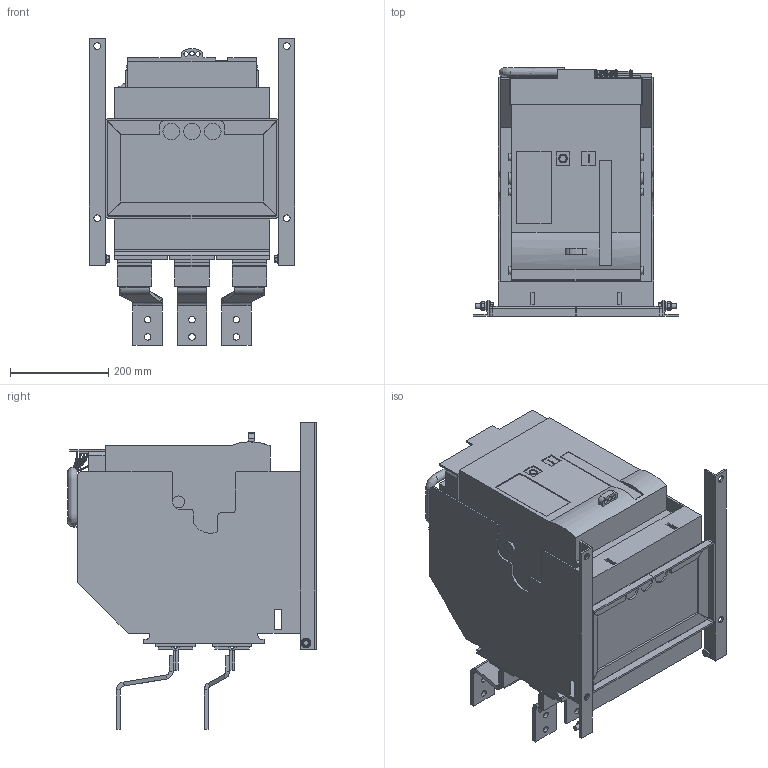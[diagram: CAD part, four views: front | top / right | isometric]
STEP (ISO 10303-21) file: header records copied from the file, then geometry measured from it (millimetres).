
FILE_DESCRIPTION (( 'STEP AP214' ), '1' );
FILE_NAME ('Ýëåêòðîí Ý06Â Ïðî_defeature.STEP', '2022-06-07T11:09:38', ( '' ), ( '' ), 'SwSTEP 2.0', 'SolidWorks 2018', '' );
FILE_SCHEMA (( 'AUTOMOTIVE_DESIGN' ));
Length unit declared in the file: millimetre
Products named in the file (1): Ýëåêòðîí Ý06Â Ïðî_defeature
Bounding box: 417 x 505.2 x 622.95 mm (x, y, z)
Volume: 34734695.6 mm3; surface area: 2375642.9 mm2
Topology: 75 solids, 75 shells, 1104 faces, 2413 edges, 1473 vertices
Faces by surface type: plane 854, cylinder 171, bspline 61, cone 16, torus 2
Full cylindrical faces by diameter (mm): 2.4 x13, 4.8 x1, 6.831 x1, 8.209 x1, 8.898 x3, 9.79 x1, 10 x2, 11.195 x1, 12.443 x1, 12.736 x1, 13 x13, 13.302 x5, 14 x16, 17 x1, 19.176 x1, 20 x4, 24 x2, 34 x3
Entity records: 135407 total; most frequent: CARTESIAN_POINT 29693, ORIENTED_EDGE 20910, DIRECTION 19434, EDGE_CURVE 10455, VECTOR 9224, LINE 9224, VERTEX_POINT 6860, AXIS2_PLACEMENT_3D 5105
